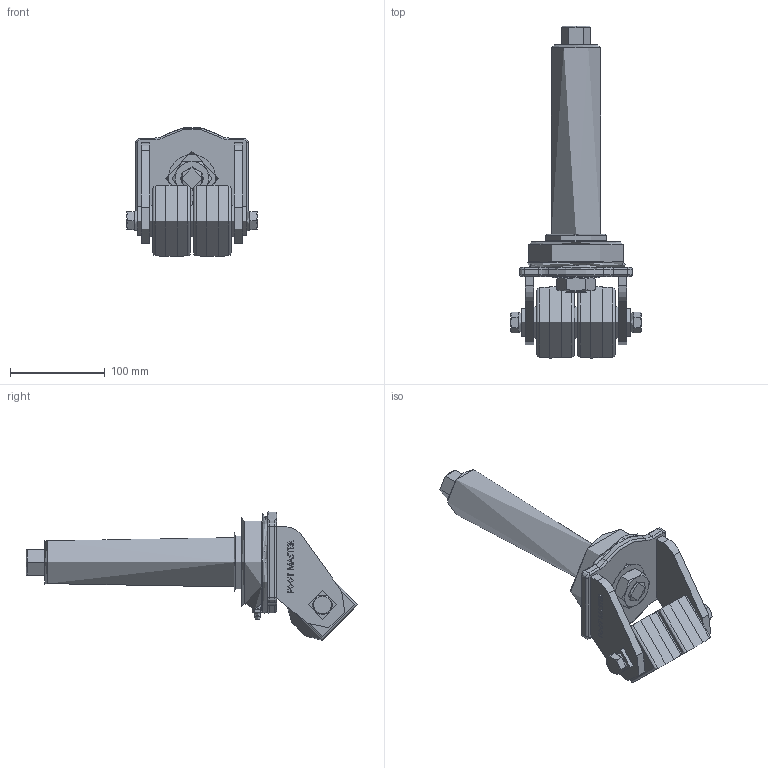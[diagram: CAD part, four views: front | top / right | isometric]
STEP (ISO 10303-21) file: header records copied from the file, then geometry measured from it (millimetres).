
FILE_DESCRIPTION(/* description */ (''),/* implementation_level */ '2;1');
FILE_NAME(/* name */ 'C:\Users\admin\Desktop\업무폴더\일자별 업무\2024\03월\03.08\홈페이지용 3D\3D\GXTT-75-ASS-HUD-PM52x200L.stp',/* time_stamp */ '2024-03-13T17:31:52+09:00',/* author */ ('admin'),/* organization */ (''),/* preprocessor_version */ 'ST-DEVELOPER v18.1',/* originating_system */ 'Autodesk Inventor 2021',/* authorisation */ '');
FILE_SCHEMA (('CONFIG_CONTROL_DESIGN'));
Length unit declared in the file: millimetre
Products named in the file (1): GXTT-75-ASS-HUD-PM52x200L_PART
Bounding box: 138 x 350.5 x 136.06 mm (x, y, z)
Topology: 1 solids, 9 shells, 503 faces, 1225 edges, 784 vertices
Faces by surface type: plane 294, bspline 89, cylinder 47, cone 43, torus 30
Full cylindrical faces by diameter (mm): 1 x1, 20.6 x2, 24 x1, 30 x2, 33 x3, 36 x1, 50 x1, 52 x1, 54 x1, 60 x1, 64 x1, 75 x2, 85 x1, 100 x1
Entity records: 15377 total; most frequent: CARTESIAN_POINT 4091, ORIENTED_EDGE 2468, DIRECTION 2053, EDGE_CURVE 1234, VERTEX_POINT 784, LINE 757, VECTOR 757, AXIS2_PLACEMENT_3D 648
